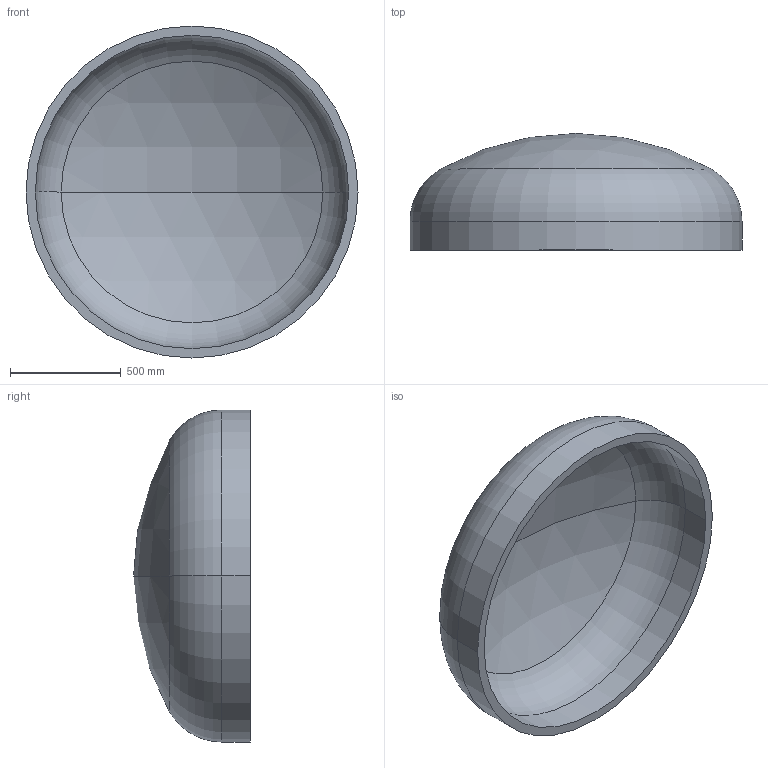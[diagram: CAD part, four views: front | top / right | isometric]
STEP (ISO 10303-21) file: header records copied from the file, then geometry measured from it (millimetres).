
FILE_DESCRIPTION (( 'STEP AP203' ), '1' );
FILE_NAME ('DIN 28013 Korbbogenform_-_Boden DIN 28013 - 1500 x 130 - I - s=42.step', '2016-07-01T10:46:19', ( '' ), ( '' ), 'SwSTEP 2.0', 'SolidWorks 2013', '' );
FILE_SCHEMA (( 'CONFIG_CONTROL_DESIGN' ));
Length unit declared in the file: millimetre
Products named in the file (1): DIN 28013 Korbbogenform_-_Boden DIN 28013 - 1500 x 130 - I - s=42
Bounding box: 1500 x 527.95 x 1500 mm (x, y, z)
Volume: 124019025.1 mm3; surface area: 6101739.3 mm2
Topology: 1 solids, 1 shells, 13 faces, 24 edges, 14 vertices
Faces by surface type: torus 4, cylinder 4, sphere 4, plane 1
Entity records: 407 total; most frequent: DIRECTION 72, CARTESIAN_POINT 52, ORIENTED_EDGE 48, AXIS2_PLACEMENT_3D 34, EDGE_CURVE 24, CIRCLE 20, VERTEX_POINT 14, EDGE_LOOP 14
